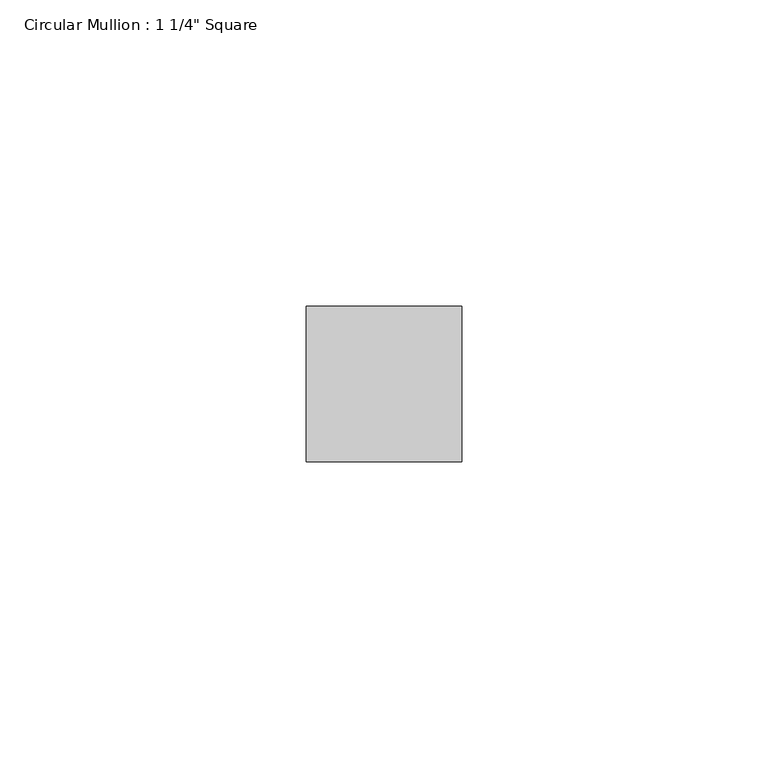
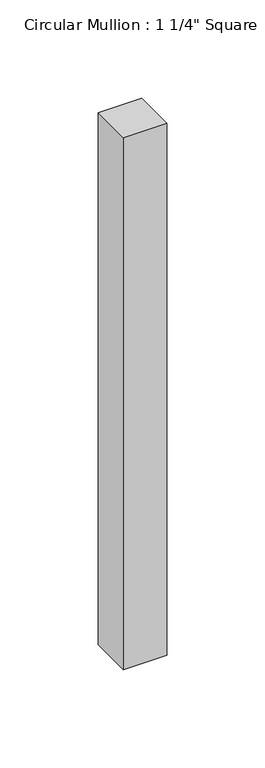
"""IFC4 building model written with IfcOpenShell, lengths in millimetres: member geometry."""

from ifc_helpers import new_model, si_unit, frame, origin, place, context, project, spatial, polyline, outline, extrude, source, transform, mapped, element, save


def member_ffd569fb(model_context):
    return source(origin(), model_context, "Body", "SweptSolid", [
        extrude(outline(polyline([(12.7, 12.7), (12.7, -12.7), (-12.7, -12.7), (-12.7, 12.7), (12.7, 12.7)])), frame((0.0, 0.0, -330.2000003), z_axis=(0.0, 0.0, 1.0), x_axis=(1.0, 0.0, 0.0)), (0.0, 0.0, 1.0), 330.2000003),
    ])


if __name__ == "__main__":
    model = new_model("IFC4")
    model_context = context("Model", 3, world=origin())
    ifc_project = project(units=[si_unit("LENGTHUNIT", "METRE", prefix="MILLI")], contexts=[model_context])
    site = spatial("IfcSite", under=ifc_project)
    building = spatial("IfcBuilding", under=site)
    placement = place(None, origin())
    member_shape = member_ffd569fb(model_context)
    element("IfcMember", 1, ObjectType="Circular Mullion : 1 1/4\" Square", at=placement, inside=building, context=model_context, shape_type="MappedRepresentation", body=[
        mapped(member_shape, transform((0.0, 0.0, 0.0), x_axis=(1.0, 0.0, 0.0), y_axis=(0.0, 1.0, 0.0), z_axis=(0.0, 0.0, 1.0))),
    ])
    save(model, "model.ifc")
